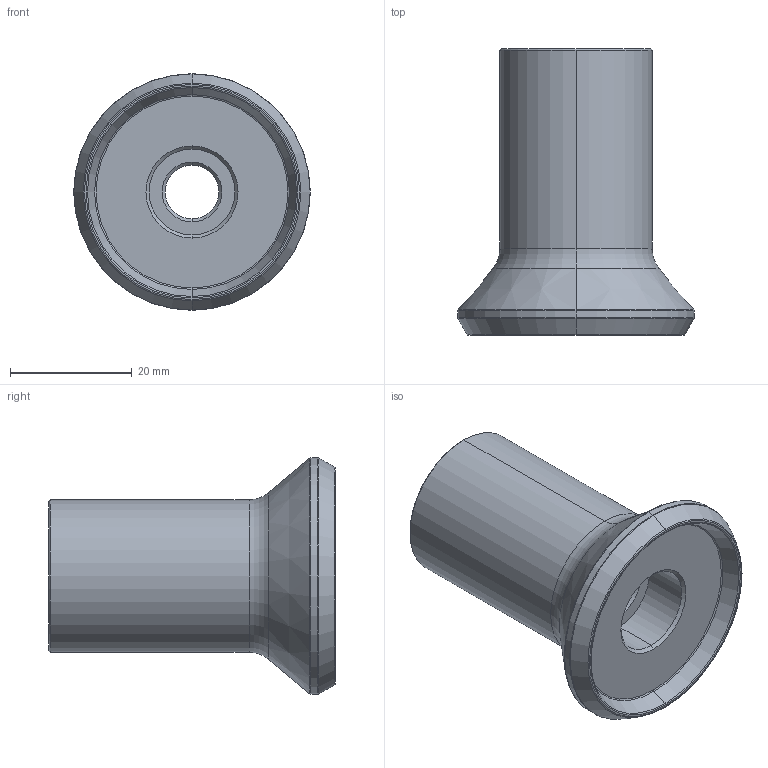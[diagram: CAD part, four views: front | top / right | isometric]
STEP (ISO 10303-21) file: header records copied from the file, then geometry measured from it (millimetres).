
FILE_DESCRIPTION (( 'STEP AP214' ), '1' );
FILE_NAME ('8062026.01 - 抔黽鳧 COMBI 130.step', '2026-06-08T14:06:39', ( '' ), ( '' ), 'SwSTEP 2.0', 'SolidWorks 2023', '' );
FILE_SCHEMA (( 'AUTOMOTIVE_DESIGN' ));
Length unit declared in the file: millimetre
Products named in the file (1): 8062026.01 - Клапан COMBI 130
Bounding box: 38.8 x 47 x 38.8 mm (x, y, z)
Volume: 17164.9 mm3; surface area: 7943.2 mm2
Topology: 1 solids, 1 shells, 41 faces, 82 edges, 46 vertices
Faces by surface type: cone 14, torus 12, cylinder 10, plane 5
Entity records: 1093 total; most frequent: DIRECTION 224, CARTESIAN_POINT 170, ORIENTED_EDGE 164, AXIS2_PLACEMENT_3D 100, EDGE_CURVE 82, CIRCLE 58, VERTEX_POINT 46, EDGE_LOOP 46
